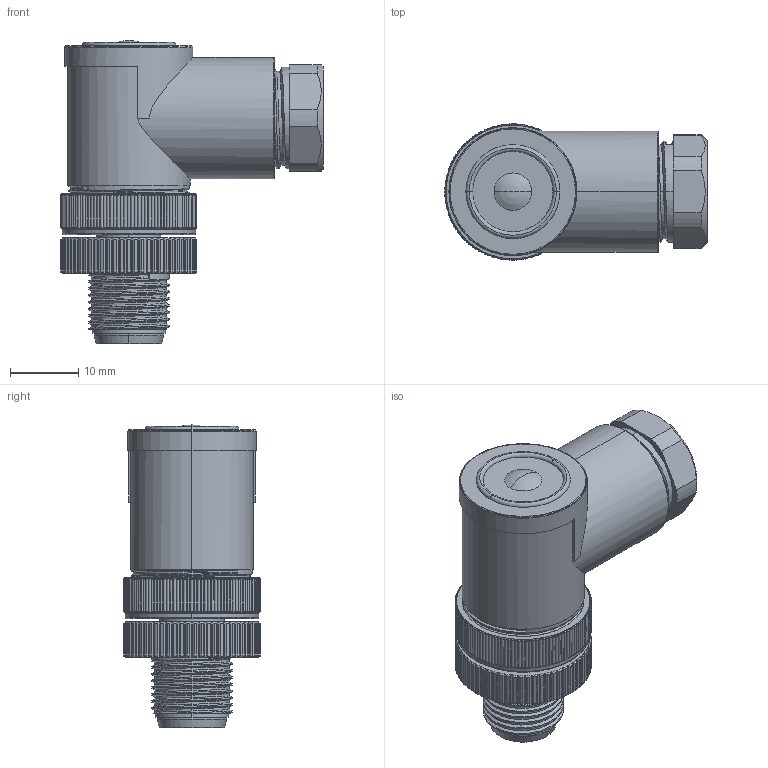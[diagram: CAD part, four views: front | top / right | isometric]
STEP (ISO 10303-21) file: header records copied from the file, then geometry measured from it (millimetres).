
FILE_DESCRIPTION((''),'2;1');
FILE_NAME('XC-M12-RWK-PG9','2025-06-20T16:49:25',('lyj'),(''),'CREO PARAMETRIC BY PTC INC, 2019010','CREO PARAMETRIC BY PTC INC, 2019010','');
FILE_SCHEMA(('CONFIG_CONTROL_DESIGN'));
Length unit declared in the file: millimetre
Products named in the file (1): XC-M12-RWK-PG9
Bounding box: 38.54 x 20 x 44.5 mm (x, y, z)
Volume: 8962.1 mm3; surface area: 12496.3 mm2
Topology: 1 solids, 10 shells, 1438 faces, 3921 edges, 2520 vertices
Faces by surface type: cylinder 566, cone 415, plane 344, bspline 41, torus 34, extrusion 28, sphere 10
Entity records: 74420 total; most frequent: CARTESIAN_POINT 39669, ORIENTED_EDGE 7822, DIRECTION 6632, EDGE_CURVE 3911, AXIS2_PLACEMENT_3D 2667, VERTEX_POINT 2520, EDGE_LOOP 1511, FACE_OUTER_BOUND 1438
